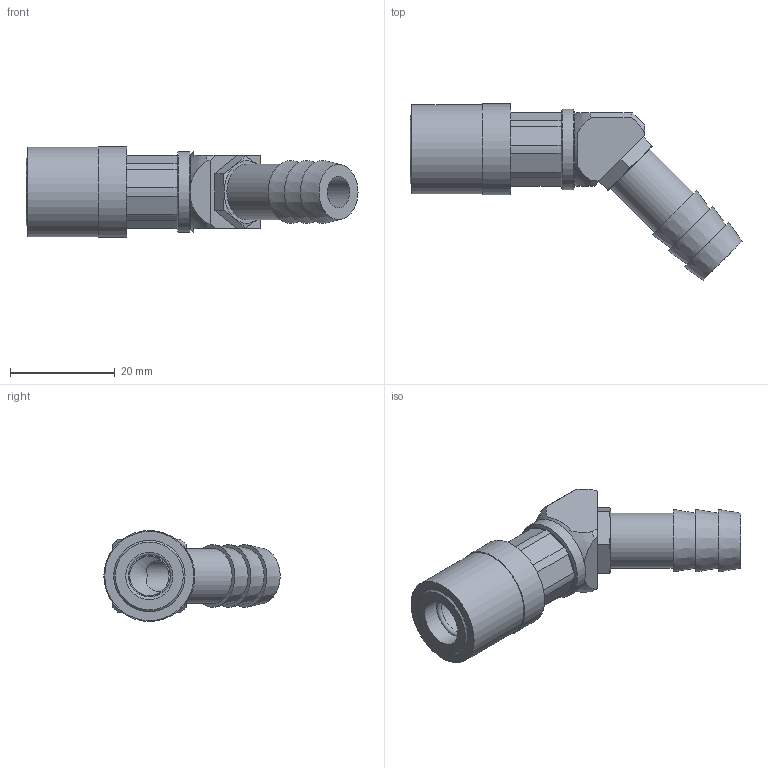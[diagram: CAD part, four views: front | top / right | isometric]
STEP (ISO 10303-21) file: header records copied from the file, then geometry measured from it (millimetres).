
FILE_DESCRIPTION(/* description */ ('STEP AP214'),/* implementation_level */ '2;1');
FILE_NAME(/* name */ 'SK309',/* time_stamp */ '2024-12-19T09:33:15+01:00',/* author */ ('License CC BY-ND 4.0'),/* organization */ ('CADENAS'),/* preprocessor_version */ 'ST-DEVELOPER v19.3',/* originating_system */ 'PARTsolutions',/* authorisation */ ' ');
FILE_SCHEMA (('AUTOMOTIVE_DESIGN {1 0 10303 214 3 1 1}'));
Length unit declared in the file: millimetre
Products named in the file (1): SK309
Bounding box: 63.27 x 33.6 x 17.34 mm (x, y, z)
Volume: 7981.7 mm3; surface area: 5189.9 mm2
Topology: 1 solids, 1 shells, 84 faces, 183 edges, 118 vertices
Faces by surface type: plane 56, cone 13, cylinder 10, sphere 4, torus 1
Full cylindrical faces by diameter (mm): 6 x1, 7.518 x1, 9 x2, 10.5 x1, 13.97 x1, 15.367 x1, 17 x1, 17.34 x1
Entity records: 2244 total; most frequent: CARTESIAN_POINT 428, DIRECTION 392, ORIENTED_EDGE 320, AXIS2_PLACEMENT_3D 162, EDGE_CURVE 160, EDGE_LOOP 120, FACE_BOUND 120, VERTEX_POINT 112
